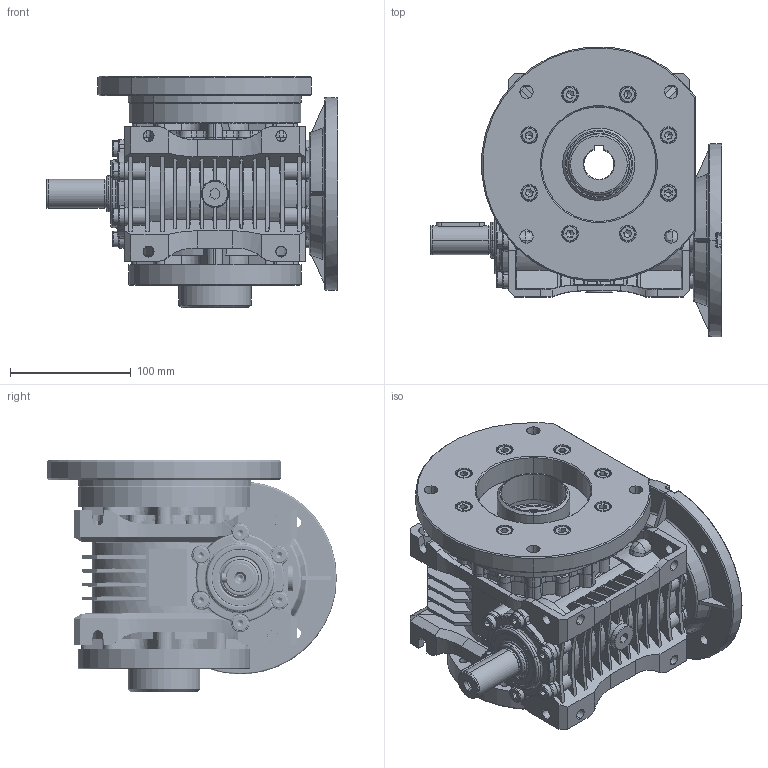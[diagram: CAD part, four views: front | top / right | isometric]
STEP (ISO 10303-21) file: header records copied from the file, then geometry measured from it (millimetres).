
FILE_DESCRIPTION (( 'STEP AP203' ), '1' );
FILE_NAME ('MRP-63_160-14-WBS-SO_1-KM_2-3D.STEP', '2024-10-28T13:51:11', ( '' ), ( '' ), 'SwSTEP 2.0', 'SolidWorks 2022', '' );
FILE_SCHEMA (( 'CONFIG_CONTROL_DESIGN' ));
Length unit declared in the file: millimetre
Products named in the file (1): MRP-63_160-14-WBS-SO_1-KM_2-3D
Bounding box: 242 x 240.33 x 192 mm (x, y, z)
Volume: 3040745.5 mm3; surface area: 494996.8 mm2
Topology: 1 solids, 105 shells, 4147 faces, 10223 edges, 6312 vertices
Faces by surface type: plane 1473, cone 1078, cylinder 731, torus 427, bspline 400, sphere 38
Entity records: 135832 total; most frequent: CARTESIAN_POINT 41209, ORIENTED_EDGE 20158, DIRECTION 19551, EDGE_CURVE 10079, AXIS2_PLACEMENT_3D 7731, VERTEX_POINT 6312, EDGE_LOOP 4449, ADVANCED_FACE 4147
